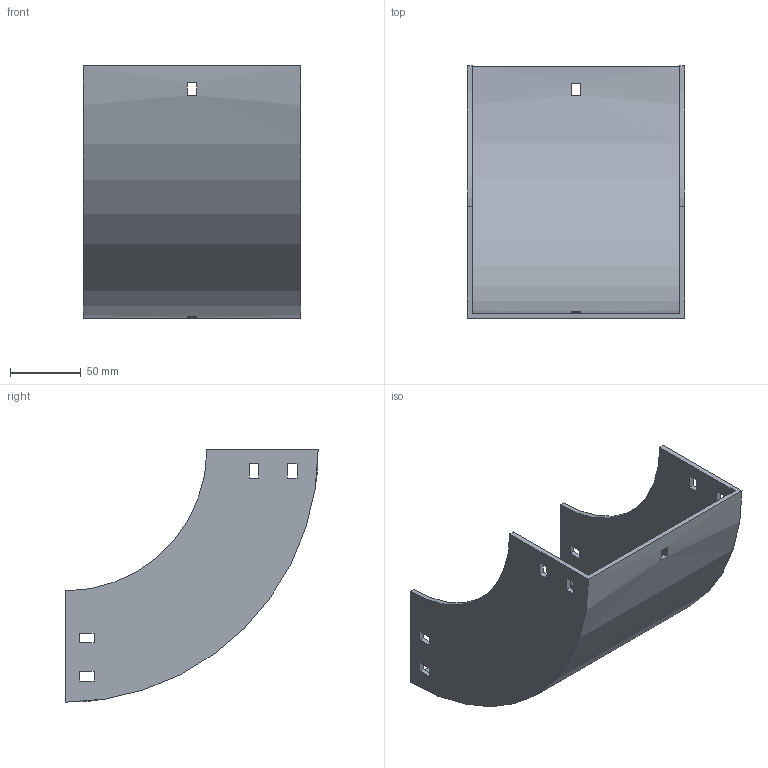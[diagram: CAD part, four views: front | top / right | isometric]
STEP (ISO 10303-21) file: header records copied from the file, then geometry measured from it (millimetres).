
FILE_DESCRIPTION (( 'STEP AP214' ), '1' );
FILE_NAME ('30B1C150.step', '2025-02-21T09:50:47', ( '' ), ( '' ), 'SwSTEP 2.0', 'SolidWorks 2023', '' );
FILE_SCHEMA (( 'AUTOMOTIVE_DESIGN' ));
Length unit declared in the file: millimetre
Products named in the file (1): 30B1C150
Bounding box: 154 x 179 x 179 mm (x, y, z)
Volume: 262054.4 mm3; surface area: 154169.1 mm2
Topology: 1 solids, 1 shells, 50 faces, 144 edges, 96 vertices
Faces by surface type: plane 46, cylinder 4
Entity records: 1687 total; most frequent: CARTESIAN_POINT 291, ORIENTED_EDGE 288, DIRECTION 262, EDGE_CURVE 144, VECTOR 128, LINE 128, VERTEX_POINT 96, EDGE_LOOP 70
